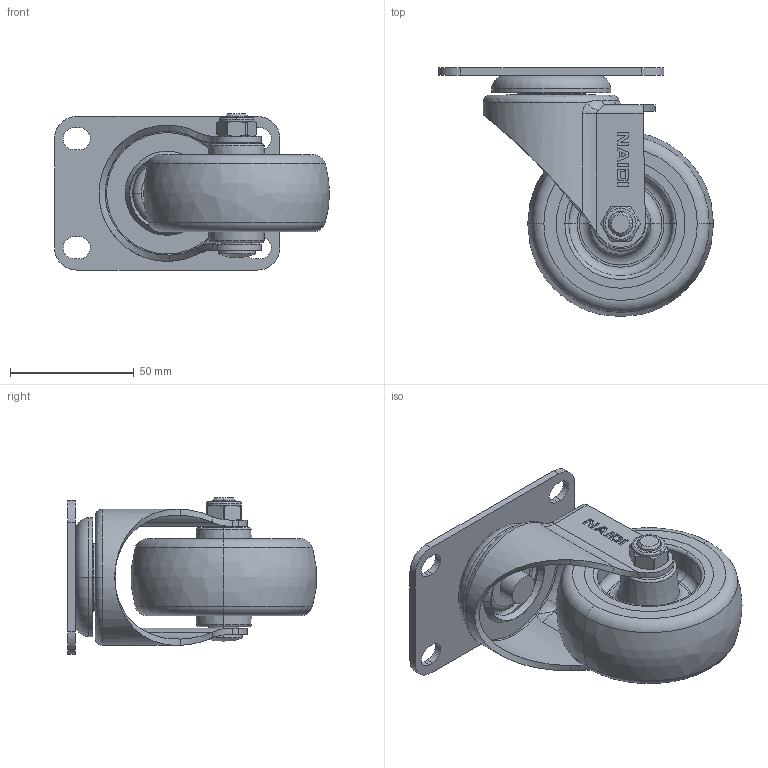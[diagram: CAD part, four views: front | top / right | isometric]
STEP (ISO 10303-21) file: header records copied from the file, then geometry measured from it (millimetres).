
FILE_DESCRIPTION((''),'2;1');
FILE_NAME('C52113_ASM_3_ASM','2024-05-23T',('Lenovo'),(''),'PRO/ENGINEER BY PARAMETRIC TECHNOLOGY CORPORATION, 2010280','PRO/ENGINEER BY PARAMETRIC TECHNOLOGY CORPORATION, 2010280','');
FILE_SCHEMA(('CONFIG_CONTROL_DESIGN'));
Length unit declared in the file: millimetre
Products named in the file (9): C5210-201_1; C5210-211_2; C5213-311_3; 500-31_8; C523-964_2; 500-54_1; 570-33_3; 570-34_5; C52113_ASM_3_ASM
Assembly tree (8 placements, depth 2):
  C52113_ASM_3_ASM
    C5210-201_1
    C5210-211_2
    C5213-311_3
    500-31_8
    C523-964_2
    500-54_1
    570-33_3
    570-34_5
Bounding box: 111 x 100.3 x 63 mm (x, y, z)
Volume: 90401.6 mm3; surface area: 70435.6 mm2
Topology: 8 solids, 9 shells, 290 faces, 719 edges, 462 vertices
Faces by surface type: plane 114, cylinder 75, torus 48, cone 36, bspline 15, sphere 2
Entity records: 10486 total; most frequent: CARTESIAN_POINT 3192, DIRECTION 1584, ORIENTED_EDGE 1434, EDGE_CURVE 717, AXIS2_PLACEMENT_3D 635, VERTEX_POINT 462, CIRCLE 341, EDGE_LOOP 335
